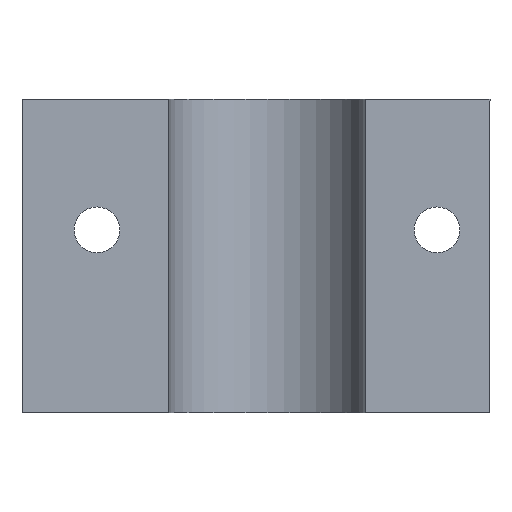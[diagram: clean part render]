
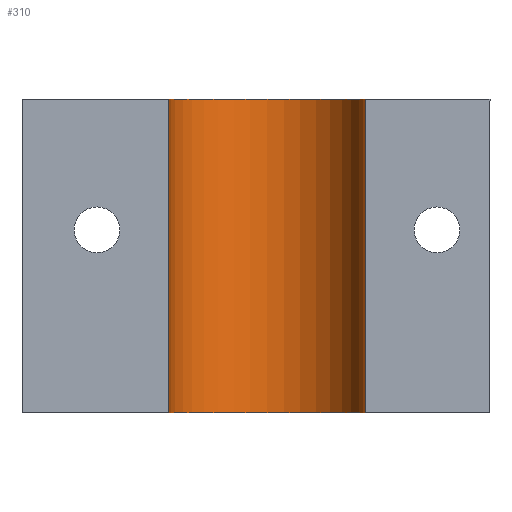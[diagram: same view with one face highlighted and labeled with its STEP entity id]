
A CAD part, left-side view. The second image highlights one B-rep face of the part: STEP entity #310.
In plain terms, the highlighted cylindrical face has radius 7.5 mm (diameter 15 mm), a partial arc.
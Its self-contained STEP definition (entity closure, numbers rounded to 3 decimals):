
#31=CYLINDRICAL_SURFACE('',#354,7.5);
#48=FACE_OUTER_BOUND('',#66,.T.);
#66=EDGE_LOOP('',(#273,#274,#275,#276));
#72=CIRCLE('',#330,7.5);
#80=CIRCLE('',#353,7.5);
#105=LINE('',#575,#131);
#106=LINE('',#576,#132);
#131=VECTOR('',#440,10.);
#132=VECTOR('',#441,10.);
#139=VERTEX_POINT('',#462);
#140=VERTEX_POINT('',#464);
#159=VERTEX_POINT('',#569);
#160=VERTEX_POINT('',#571);
#167=EDGE_CURVE('',#140,#139,#72,.T.);
#199=EDGE_CURVE('',#160,#159,#80,.T.);
#201=EDGE_CURVE('',#139,#160,#105,.T.);
#202=EDGE_CURVE('',#159,#140,#106,.T.);
#273=ORIENTED_EDGE('',*,*,#167,.T.);
#274=ORIENTED_EDGE('',*,*,#201,.T.);
#275=ORIENTED_EDGE('',*,*,#199,.T.);
#276=ORIENTED_EDGE('',*,*,#202,.T.);
#310=ADVANCED_FACE('',(#48),#31,.F.);
#330=AXIS2_PLACEMENT_3D('',#465,#371,#372);
#353=AXIS2_PLACEMENT_3D('',#572,#435,#436);
#354=AXIS2_PLACEMENT_3D('',#574,#438,#439);
#371=DIRECTION('center_axis',(0.,-1.,0.));
#372=DIRECTION('ref_axis',(-1.,0.,0.));
#435=DIRECTION('center_axis',(0.,1.,0.));
#436=DIRECTION('ref_axis',(-1.,0.,0.));
#438=DIRECTION('center_axis',(0.,1.,0.));
#439=DIRECTION('ref_axis',(1.,0.,0.));
#440=DIRECTION('',(0.,1.,0.));
#441=DIRECTION('',(0.,-1.,0.));
#462=CARTESIAN_POINT('',(-19.897,174.,-49.501));
#464=CARTESIAN_POINT('',(-19.897,174.,-64.499));
#465=CARTESIAN_POINT('Origin',(-20.,174.,-57.));
#569=CARTESIAN_POINT('',(-19.897,198.,-64.499));
#571=CARTESIAN_POINT('',(-19.897,198.,-49.501));
#572=CARTESIAN_POINT('Origin',(-20.,198.,-57.));
#574=CARTESIAN_POINT('Origin',(-20.,178.,-57.));
#575=CARTESIAN_POINT('',(-19.897,178.,-49.501));
#576=CARTESIAN_POINT('',(-19.897,178.,-64.499));
